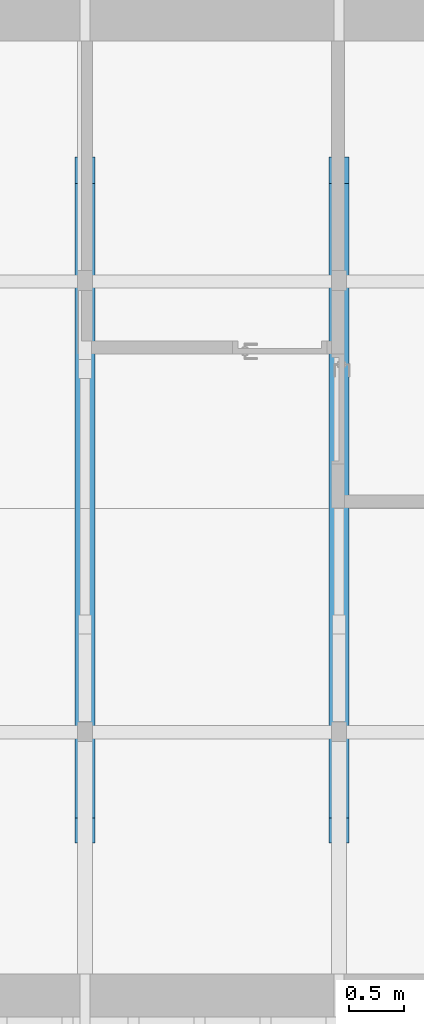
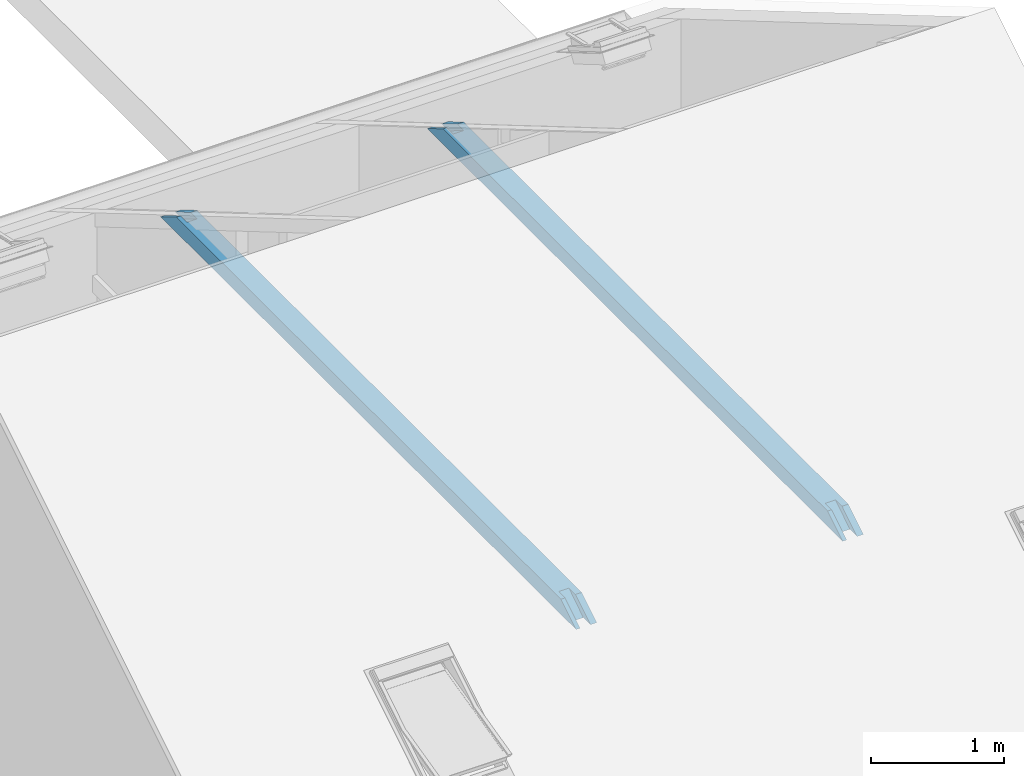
"""IFC4 building model written with IfcOpenShell, lengths in metres."""

import ifcopenshell
import ifcopenshell.guid

model = None  # the IFC model being written
_history = None  # IfcOwnerHistory: only IFC2X3 demands one
_inside = {}  # id of a spatial element -> (the spatial element, [elements in it])
_under = {}  # id of a project, library or spatial element -> (it, [spatial elements below it])
_declared = {}  # id of a project -> (the project, [libraries it declares])
_typed = {}  # id of a type object -> (the type object, [elements of that type])
_made_of = {}  # id of a material, layer set ... -> (it, [elements and type objects made of it])


def new_model(schema):
    """Start an empty IFC model of exactly this schema.

    Asked for "IFC4X3", IfcOpenShell would pick the latest addendum, in which some entities
    have other attributes; the version numbers below select the first issue.
    IFC2X3 requires an IfcOwnerHistory on every rooted entity: one is made here for all.
    """
    global model, _history
    if schema == "IFC4X3":
        model = ifcopenshell.file(schema_version=(4, 3, 0, 0))
    else:
        model = ifcopenshell.file(schema=schema)
    _inside.clear()
    _under.clear()
    _declared.clear()
    _typed.clear()
    _made_of.clear()
    _history = None
    if model.schema == "IFC2X3":
        org = make("IfcOrganization", Name="unknown")
        user = make(
            "IfcPersonAndOrganization",
            ThePerson=make("IfcPerson", FamilyName="unknown"),
            TheOrganization=org,
        )
        app = make(
            "IfcApplication",
            ApplicationDeveloper=org,
            Version="unknown",
            ApplicationFullName="unknown",
            ApplicationIdentifier="unknown",
        )
        _history = make(
            "IfcOwnerHistory",
            OwningUser=user,
            OwningApplication=app,
            ChangeAction="ADDED",
            CreationDate=0,
        )
    return model


def make(cls, **values):
    """One entity of the class cls with the attributes given. An attribute that is None is left unset."""
    return model.create_entity(
        cls, **{name: value for name, value in values.items() if value is not None}
    )


def entity(cls, *values):
    """Any entity or typed value of the class cls, its attributes in the order of the schema. None: left unset."""
    e = model.create_entity(cls)
    for i, value in enumerate(values):
        if value is not None:
            e[i] = value
    return e


def rooted(cls, **values):
    """An entity with a GlobalId (a new one), such as an element, a storey or a relation."""
    return make(cls, GlobalId=ifcopenshell.guid.new(), OwnerHistory=_history, **values)


def si_unit(unit_type, name, prefix=None):
    """IfcSIUnit, for example si_unit("LENGTHUNIT", "METRE", prefix="MILLI")."""
    return make("IfcSIUnit", UnitType=unit_type, Prefix=prefix, Name=name)


def converted_unit(unit_type, name, factor, base, dimensions=None, offset=None):
    """IfcConversionBasedUnit, such as the inch: factor (a typed value) times the base unit."""
    return make(
        "IfcConversionBasedUnit"
        if offset is None
        else "IfcConversionBasedUnitWithOffset",
        ConversionOffset=offset,
        Dimensions=None
        if dimensions is None
        else entity("IfcDimensionalExponents", *dimensions),
        UnitType=unit_type,
        Name=name,
        ConversionFactor=make(
            "IfcMeasureWithUnit", ValueComponent=factor, UnitComponent=base
        ),
    )


def derived_unit(unit_type, elements):
    """IfcDerivedUnit: a product of units, each with its exponent."""
    return make(
        "IfcDerivedUnit",
        Elements=[
            make("IfcDerivedUnitElement", Unit=unit, Exponent=power)
            for unit, power in elements
        ],
        UnitType=unit_type,
    )


def assignment(units):
    """IfcUnitAssignment: the units of a project."""
    return None if units is None else make("IfcUnitAssignment", Units=units)


def point(xyz):
    """IfcCartesianPoint."""
    return None if xyz is None else make("IfcCartesianPoint", Coordinates=xyz)


def direction(xyz):
    """IfcDirection."""
    return None if xyz is None else make("IfcDirection", DirectionRatios=xyz)


def frame(location, z_axis=None, x_axis=None):
    """IfcAxis2Placement3D, a coordinate frame: its origin and axes. An axis left out is left unset."""
    return make(
        "IfcAxis2Placement3D",
        Location=point(location),
        Axis=direction(z_axis),
        RefDirection=direction(x_axis),
    )


def origin():
    """The frame at (0, 0, 0) with its axes left unset."""
    return frame((0.0, 0.0, 0.0))


def place(relative_to, where):
    """IfcLocalPlacement: puts the frame where relative to a parent placement (None: the world)."""
    return make(
        "IfcLocalPlacement", PlacementRelTo=relative_to, RelativePlacement=where
    )


def context(
    kind, dimensions, precision=None, world=None, true_north=None, identifier=None
):
    """IfcGeometricRepresentationContext, for example the 3D "Model" context."""
    return make(
        "IfcGeometricRepresentationContext",
        ContextIdentifier=identifier,
        ContextType=kind,
        CoordinateSpaceDimension=dimensions,
        Precision=precision,
        WorldCoordinateSystem=world,
        TrueNorth=true_north,
    )


def subcontext(parent, identifier, kind, view, scale=None):
    """IfcGeometricRepresentationSubContext, for example "Body" below "Model"."""
    return make(
        "IfcGeometricRepresentationSubContext",
        ContextIdentifier=identifier,
        ContextType=kind,
        ParentContext=parent,
        TargetScale=scale,
        TargetView=view,
    )


def project(units=None, contexts=None):
    """IfcProject with its units and contexts."""
    return rooted(
        "IfcProject",
        Name="project",
        RepresentationContexts=contexts,
        UnitsInContext=assignment(units),
    )


def spatial(cls, under=None, at=None, **own):
    """A site, building, storey or space (cls), placed at a placement, below another one or the project."""
    s = rooted(cls, ObjectPlacement=at, **own)
    if under is not None:
        _under.setdefault(under.id(), (under, []))[1].append(s)
    return s


def faces_of(points, faces, orient=None, outer=None):
    """IfcFace entities. A face is a list of loops; a loop is a list of indices into points, from 0.

    orient and outer hold one flag for each loop. By default every Orientation is true, the
    first loop of a face is its IfcFaceOuterBound and the others are IfcFaceBound.
    """
    made = []
    for i, loops in enumerate(faces):
        bounds = []
        for j, loop in enumerate(loops):
            is_outer = j == 0 if outer is None else outer[i][j]
            bounds.append(
                make(
                    "IfcFaceOuterBound" if is_outer else "IfcFaceBound",
                    Bound=make("IfcPolyLoop", Polygon=[points[k] for k in loop]),
                    Orientation=True if orient is None else orient[i][j],
                )
            )
        made.append(make("IfcFace", Bounds=bounds))
    return made


def faceted_brep(points, faces, orient=None, outer=None, voids=None):
    """IfcFacetedBrep: a solid bounded by flat faces; with voids (closed shells), ...WithVoids."""
    shared = [point(p) for p in points]
    hull = make("IfcClosedShell", CfsFaces=faces_of(shared, faces, orient, outer))
    if voids is None:
        return make("IfcFacetedBrep", Outer=hull)
    return make(
        "IfcFacetedBrepWithVoids",
        Outer=hull,
        Voids=[
            make(cls, CfsFaces=faces_of(shared, fs, o, b)) for cls, fs, o, b in voids
        ],
    )


def shape(context_of_items, identifier, shape_type, items):
    """IfcShapeRepresentation: the items that make up one representation, for example the "Body"."""
    return make(
        "IfcShapeRepresentation",
        ContextOfItems=context_of_items,
        RepresentationIdentifier=identifier,
        RepresentationType=shape_type,
        Items=items,
    )


def made_of(thing, what):
    """Note that an element or type object is made of a material, layer set ...; save() writes the relation."""
    if what is not None:
        _made_of.setdefault(what.id(), (what, []))[1].append(thing)
    return thing


def element(
    cls,
    number,
    at=None,
    inside=None,
    cuts=None,
    type_object=None,
    material=None,
    context=None,
    identifier="Body",
    shape_type=None,
    held_by="IfcProductDefinitionShape",
    body=None,
    shapes=None,
    **own,
):
    """One element of the class cls, such as IfcWall. Its Tag is "e" and its number.

    at: its placement. inside: the storey or other place that contains it. cuts: it is an
    opening in that element (IfcRelVoidsElement). A single representation is given by context,
    identifier, shape_type and body (its items); several are given by shapes. held_by: the class
    of the entity that holds the representations. save() writes the other relations.
    """
    e = rooted(cls, Tag="e%d" % number, ObjectPlacement=at, **own)
    if body is not None:
        shapes = [shape(context, identifier, shape_type, body)]
    if shapes is not None:
        e.Representation = make(held_by, Representations=shapes)
    if inside is not None:
        _inside.setdefault(inside.id(), (inside, []))[1].append(e)
    if cuts is not None:
        rooted(
            "IfcRelVoidsElement", RelatingBuildingElement=cuts, RelatedOpeningElement=e
        )
    if type_object is not None:
        _typed.setdefault(type_object.id(), (type_object, []))[1].append(e)
    return made_of(e, material)


def aggregate(whole, parts):
    """IfcRelAggregates: a whole, such as a stair, and the parts it consists of."""
    return rooted("IfcRelAggregates", RelatingObject=whole, RelatedObjects=parts)


def save(model, path):
    """Write the relations noted so far, then the file.

    IfcRelAggregates (storeys below a building ...), IfcRelContainedInSpatialStructure (elements
    in a storey), IfcRelDefinesByType, IfcRelAssociatesMaterial and IfcRelDeclares: one each for
    every whole, place, type object, material and project.
    """
    for whole, parts in _under.values():
        aggregate(whole, parts)
    for where, things in _inside.values():
        rooted(
            "IfcRelContainedInSpatialStructure",
            RelatedElements=things,
            RelatingStructure=where,
        )
    for kind, things in _typed.values():
        rooted("IfcRelDefinesByType", RelatedObjects=things, RelatingType=kind)
    for what, things in _made_of.values():
        rooted("IfcRelAssociatesMaterial", RelatedObjects=things, RelatingMaterial=what)
    for by, libraries in _declared.values():
        rooted("IfcRelDeclares", RelatingContext=by, RelatedDefinitions=libraries)
    model.write(path)


model = new_model("IFC4")

# Units and contexts
model_context = context("Model", 3, precision=1e-05, world=origin())
body_context = subcontext(model_context, "Body", "Model", "MODEL_VIEW")
ifc_project = project(units=[si_unit("LENGTHUNIT", "METRE"), si_unit("AREAUNIT", "SQUARE_METRE"), si_unit("VOLUMEUNIT", "CUBIC_METRE"), si_unit("MASSUNIT", "GRAM", prefix="KILO"), converted_unit("PLANEANGLEUNIT", "DEGREE", entity("IfcPlaneAngleMeasure", 0.0174532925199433), si_unit("PLANEANGLEUNIT", "RADIAN"), dimensions=[0, 0, 0, 0, 0, 0, 0]), derived_unit("THERMALTRANSMITTANCEUNIT", [(si_unit("POWERUNIT", "WATT"), 1), (si_unit("THERMODYNAMICTEMPERATUREUNIT", "KELVIN"), -1), (si_unit("LENGTHUNIT", "METRE"), -2)]), derived_unit("VOLUMETRICFLOWRATEUNIT", [(si_unit("LENGTHUNIT", "METRE"), 3), (converted_unit("TIMEUNIT", "hour", entity("IfcTimeMeasure", 3600.0), si_unit("TIMEUNIT", "SECOND"), dimensions=[0, 0, 1, 0, 0, 0, 0]), -1), (si_unit("LENGTHUNIT", "METRE"), -1)])], contexts=[model_context])

# Building, storeys
building_placement = place(None, origin())
building = spatial("IfcBuilding", under=ifc_project, at=building_placement, Name="Bestandsgebäude A - Sporthalle / Wohnhaus (TB 100-499)   ANPASSEN !!!", CompositionType="ELEMENT")
storey_1_placement = place(building_placement, frame((0.0, 0.0, 7.71)))
storey_1 = spatial("IfcBuildingStorey", under=building, at=storey_1_placement, Name="Geb. A Dachgeschoss (TB 450-499)", CompositionType="ELEMENT", Elevation=7.71)
storey_2_placement = place(storey_1_placement, frame((0.0, 0.0, 7.71)))
storey_2 = spatial("IfcBuildingStorey", under=storey_1, at=storey_2_placement, Name="Architektur (TB 450-459)", CompositionType="PARTIAL")

# Beams
for number, where in (
    (1, (-3.06999999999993, 1.58454397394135, -5.55)),
    (2, (-5.37999999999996, 1.58454397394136, -5.55)),
):
    element("IfcBeam", number, at=place(storey_2_placement, frame(where)), inside=storey_2, PredefinedType="BEAM", context=body_context, shape_type="Brep", body=[
        faceted_brep([(0.0, 0.226416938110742, 0.14), (0.0349999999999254, 0.226416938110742, 0.14), (0.0349999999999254, 0.0, 0.0), (0.0, 0.0, 0.0), (0.124999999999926, 0.0, 0.0), (0.124999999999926, 0.226416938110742, 0.14), (0.18, 0.226416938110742, 0.14), (0.18, 0.0, 0.0), (0.0, 5.99901172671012, 0.14), (0.0351704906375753, 5.99901172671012, 0.14), (0.0351642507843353, 5.9029986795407, 0.14), (0.125164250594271, 5.90299283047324, 0.14), (0.125170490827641, 5.99901172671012, 0.14), (0.18, 5.99901172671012, 0.14), (0.124999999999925, 0.322855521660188, 0.14), (0.0349999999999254, 0.322855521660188, 0.14), (0.18, 6.23706444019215, 0.0), (0.125186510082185, 6.23706444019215, 0.0), (0.125179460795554, 6.12859658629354, 0.0), (0.0351794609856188, 6.128602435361, 0.0), (0.0351865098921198, 6.23706444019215, 0.0), (0.0, 6.23706444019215, 0.0), (0.0349999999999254, 0.108462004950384, 0.0), (0.124999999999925, 0.108462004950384, 0.0)], [[[0, 1, 2, 3]], [[4, 5, 6, 7]], [[0, 8, 9, 10, 11, 12, 13, 6, 5, 14, 15, 1]], [[6, 13, 16, 7]], [[7, 16, 17, 18, 19, 20, 21, 3, 2, 22, 23, 4]], [[3, 21, 8, 0]], [[8, 21, 20, 9]], [[12, 17, 16, 13]], [[18, 17, 12, 11]], [[10, 9, 20, 19]], [[22, 2, 1, 15]], [[15, 14, 23, 22]], [[14, 5, 4, 23]], [[11, 10, 19, 18]]], orient=[[False], [False], [False], [False], [False], [False], [False], [False], [False], [False], [False], [False], [False], [False]]),
    ])

save(model, "model.ifc")
